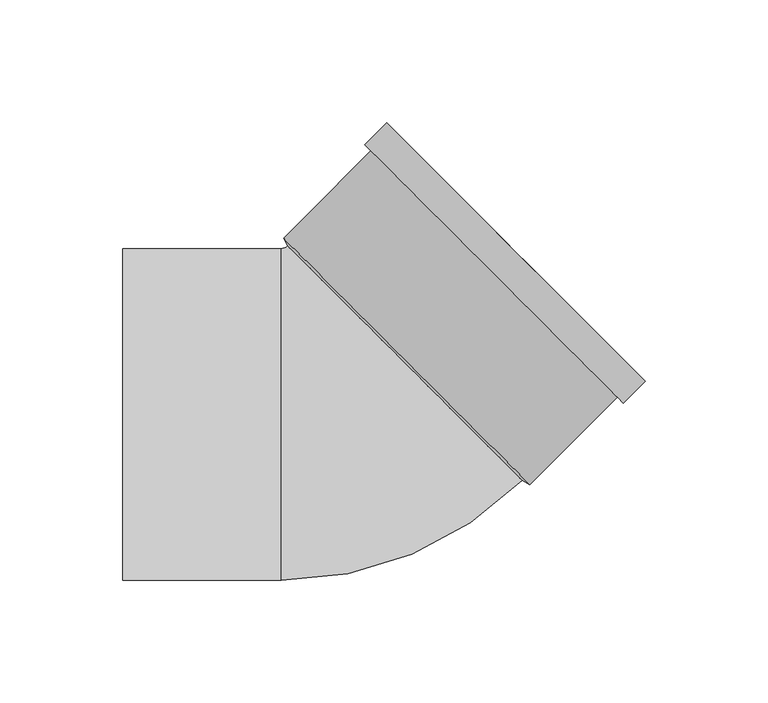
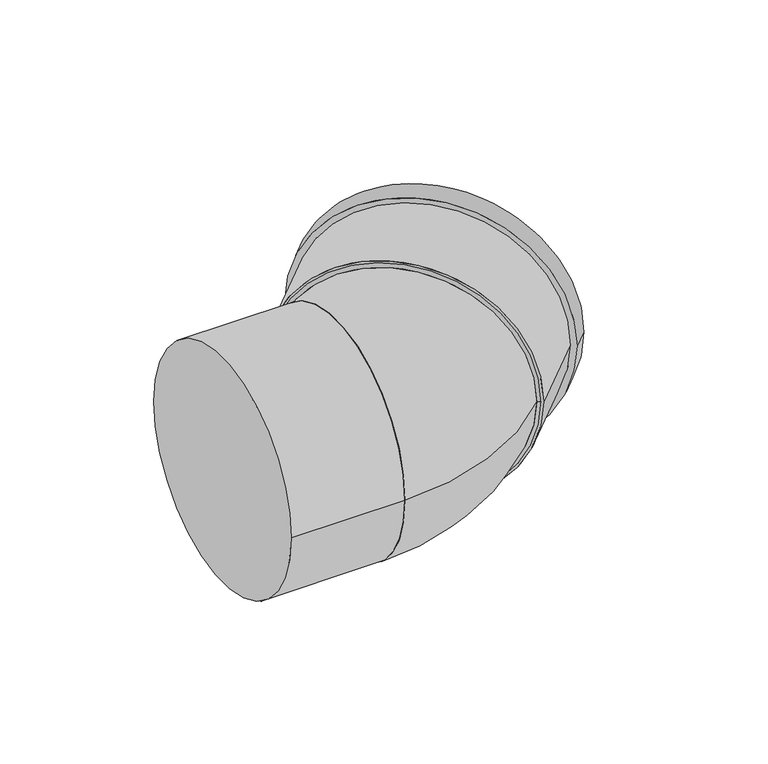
"""IFC4 building model written with IfcOpenShell, lengths in millimetres: pipe fitting geometry, Superdrain SKB Bend : Superdrain SKB Bend."""

import ifcopenshell
import ifcopenshell.guid

model = None  # the IFC model being written
_history = None  # IfcOwnerHistory: only IFC2X3 demands one
_inside = {}  # id of a spatial element -> (the spatial element, [elements in it])
_under = {}  # id of a project, library or spatial element -> (it, [spatial elements below it])
_declared = {}  # id of a project -> (the project, [libraries it declares])
_typed = {}  # id of a type object -> (the type object, [elements of that type])
_made_of = {}  # id of a material, layer set ... -> (it, [elements and type objects made of it])


def new_model(schema):
    """Start an empty IFC model of exactly this schema.

    Asked for "IFC4X3", IfcOpenShell would pick the latest addendum, in which some entities
    have other attributes; the version numbers below select the first issue.
    IFC2X3 requires an IfcOwnerHistory on every rooted entity: one is made here for all.
    """
    global model, _history
    if schema == "IFC4X3":
        model = ifcopenshell.file(schema_version=(4, 3, 0, 0))
    else:
        model = ifcopenshell.file(schema=schema)
    _inside.clear()
    _under.clear()
    _declared.clear()
    _typed.clear()
    _made_of.clear()
    _history = None
    if model.schema == "IFC2X3":
        org = make("IfcOrganization", Name="unknown")
        user = make(
            "IfcPersonAndOrganization",
            ThePerson=make("IfcPerson", FamilyName="unknown"),
            TheOrganization=org,
        )
        app = make(
            "IfcApplication",
            ApplicationDeveloper=org,
            Version="unknown",
            ApplicationFullName="unknown",
            ApplicationIdentifier="unknown",
        )
        _history = make(
            "IfcOwnerHistory",
            OwningUser=user,
            OwningApplication=app,
            ChangeAction="ADDED",
            CreationDate=0,
        )
    return model


def make(cls, **values):
    """One entity of the class cls with the attributes given. An attribute that is None is left unset."""
    return model.create_entity(
        cls, **{name: value for name, value in values.items() if value is not None}
    )


def rooted(cls, **values):
    """An entity with a GlobalId (a new one), such as an element, a storey or a relation."""
    return make(cls, GlobalId=ifcopenshell.guid.new(), OwnerHistory=_history, **values)


def si_unit(unit_type, name, prefix=None):
    """IfcSIUnit, for example si_unit("LENGTHUNIT", "METRE", prefix="MILLI")."""
    return make("IfcSIUnit", UnitType=unit_type, Prefix=prefix, Name=name)


def assignment(units):
    """IfcUnitAssignment: the units of a project."""
    return None if units is None else make("IfcUnitAssignment", Units=units)


def point(xyz):
    """IfcCartesianPoint."""
    return None if xyz is None else make("IfcCartesianPoint", Coordinates=xyz)


def direction(xyz):
    """IfcDirection."""
    return None if xyz is None else make("IfcDirection", DirectionRatios=xyz)


def frame(location, z_axis=None, x_axis=None):
    """IfcAxis2Placement3D, a coordinate frame: its origin and axes. An axis left out is left unset."""
    return make(
        "IfcAxis2Placement3D",
        Location=point(location),
        Axis=direction(z_axis),
        RefDirection=direction(x_axis),
    )


def frame_2d(location, x_axis=None):
    """IfcAxis2Placement2D, a coordinate frame in the plane: its origin and x axis."""
    return make(
        "IfcAxis2Placement2D", Location=point(location), RefDirection=direction(x_axis)
    )


def origin():
    """The frame at (0, 0, 0) with its axes left unset."""
    return frame((0.0, 0.0, 0.0))


def origin_2d():
    """The frame at (0, 0) in the plane with its x axis left unset."""
    return frame_2d((0.0, 0.0))


def place(relative_to, where):
    """IfcLocalPlacement: puts the frame where relative to a parent placement (None: the world)."""
    return make(
        "IfcLocalPlacement", PlacementRelTo=relative_to, RelativePlacement=where
    )


def context(
    kind, dimensions, precision=None, world=None, true_north=None, identifier=None
):
    """IfcGeometricRepresentationContext, for example the 3D "Model" context."""
    return make(
        "IfcGeometricRepresentationContext",
        ContextIdentifier=identifier,
        ContextType=kind,
        CoordinateSpaceDimension=dimensions,
        Precision=precision,
        WorldCoordinateSystem=world,
        TrueNorth=true_north,
    )


def project(units=None, contexts=None):
    """IfcProject with its units and contexts."""
    return rooted(
        "IfcProject",
        Name="project",
        RepresentationContexts=contexts,
        UnitsInContext=assignment(units),
    )


def spatial(cls, under=None, at=None, **own):
    """A site, building, storey or space (cls), placed at a placement, below another one or the project."""
    s = rooted(cls, ObjectPlacement=at, **own)
    if under is not None:
        _under.setdefault(under.id(), (under, []))[1].append(s)
    return s


def polyline(points):
    """IfcPolyline through the points."""
    return make("IfcPolyline", Points=[point(p) for p in points])


def circle_curve(where, radius):
    """IfcCircle in the frame where."""
    return make("IfcCircle", Position=where, Radius=radius)


def ellipse_curve(where, semi_axis1, semi_axis2):
    """IfcEllipse in the frame where."""
    return make(
        "IfcEllipse", Position=where, SemiAxis1=semi_axis1, SemiAxis2=semi_axis2
    )


def trimmed(basis, trim1, trim2, sense, master):
    """IfcTrimmedCurve: the piece of a basis curve between two trims."""
    return make(
        "IfcTrimmedCurve",
        BasisCurve=basis,
        Trim1=trim1,
        Trim2=trim2,
        SenseAgreement=sense,
        MasterRepresentation=master,
    )


def segment(curve, same_sense, transition):
    """IfcCompositeCurveSegment."""
    return make(
        "IfcCompositeCurveSegment",
        Transition=transition,
        SameSense=same_sense,
        ParentCurve=curve,
    )


def composite_curve(segments, self_intersect=None):
    """IfcCompositeCurve: segments joined end to end."""
    return make("IfcCompositeCurve", Segments=segments, SelfIntersect=self_intersect)


def outline(outer, holes=None, kind="AREA"):
    """IfcArbitraryClosedProfileDef: a profile drawn as a closed curve; with holes, ...WithVoids."""
    if holes is None:
        return make("IfcArbitraryClosedProfileDef", ProfileType=kind, OuterCurve=outer)
    return make(
        "IfcArbitraryProfileDefWithVoids",
        ProfileType=kind,
        OuterCurve=outer,
        InnerCurves=holes,
    )


def extrude(swept, where, along, depth):
    """IfcExtrudedAreaSolid: the profile swept, set in the frame where, extruded along a direction by depth."""
    return make(
        "IfcExtrudedAreaSolid",
        SweptArea=swept,
        Position=where,
        ExtrudedDirection=direction(along),
        Depth=depth,
    )


def shape(context_of_items, identifier, shape_type, items):
    """IfcShapeRepresentation: the items that make up one representation, for example the "Body"."""
    return make(
        "IfcShapeRepresentation",
        ContextOfItems=context_of_items,
        RepresentationIdentifier=identifier,
        RepresentationType=shape_type,
        Items=items,
    )


def source(mapping_origin, context_of_items, identifier, shape_type, items):
    """IfcRepresentationMap: a shape defined once, which mapped items show again and again."""
    return make(
        "IfcRepresentationMap",
        MappingOrigin=mapping_origin,
        MappedRepresentation=shape(context_of_items, identifier, shape_type, items),
    )


def transform(
    local_origin,
    x_axis=None,
    y_axis=None,
    z_axis=None,
    scale=None,
    scale2=None,
    scale3=None,
    uniform=True,
):
    """IfcCartesianTransformationOperator3D, or its non-uniform kind. x_axis, y_axis, z_axis: its Axis1, 2, 3."""
    if uniform:
        return make(
            "IfcCartesianTransformationOperator3D",
            Axis1=direction(x_axis),
            Axis2=direction(y_axis),
            LocalOrigin=point(local_origin),
            Scale=scale,
            Axis3=direction(z_axis),
        )
    return make(
        "IfcCartesianTransformationOperator3DnonUniform",
        Axis1=direction(x_axis),
        Axis2=direction(y_axis),
        LocalOrigin=point(local_origin),
        Scale=scale,
        Axis3=direction(z_axis),
        Scale2=scale2,
        Scale3=scale3,
    )


def mapped(mapping_source, mapping_target):
    """IfcMappedItem: shows the shape of a source again, moved by a transform."""
    return make(
        "IfcMappedItem", MappingSource=mapping_source, MappingTarget=mapping_target
    )


def made_of(thing, what):
    """Note that an element or type object is made of a material, layer set ...; save() writes the relation."""
    if what is not None:
        _made_of.setdefault(what.id(), (what, []))[1].append(thing)
    return thing


def element(
    cls,
    number,
    at=None,
    inside=None,
    cuts=None,
    type_object=None,
    material=None,
    context=None,
    identifier="Body",
    shape_type=None,
    held_by="IfcProductDefinitionShape",
    body=None,
    shapes=None,
    **own,
):
    """One element of the class cls, such as IfcWall. Its Tag is "e" and its number.

    at: its placement. inside: the storey or other place that contains it. cuts: it is an
    opening in that element (IfcRelVoidsElement). A single representation is given by context,
    identifier, shape_type and body (its items); several are given by shapes. held_by: the class
    of the entity that holds the representations. save() writes the other relations.
    """
    e = rooted(cls, Tag="e%d" % number, ObjectPlacement=at, **own)
    if body is not None:
        shapes = [shape(context, identifier, shape_type, body)]
    if shapes is not None:
        e.Representation = make(held_by, Representations=shapes)
    if inside is not None:
        _inside.setdefault(inside.id(), (inside, []))[1].append(e)
    if cuts is not None:
        rooted(
            "IfcRelVoidsElement", RelatingBuildingElement=cuts, RelatedOpeningElement=e
        )
    if type_object is not None:
        _typed.setdefault(type_object.id(), (type_object, []))[1].append(e)
    return made_of(e, material)


def aggregate(whole, parts):
    """IfcRelAggregates: a whole, such as a stair, and the parts it consists of."""
    return rooted("IfcRelAggregates", RelatingObject=whole, RelatedObjects=parts)


def save(model, path):
    """Write the relations noted so far, then the file.

    IfcRelAggregates (storeys below a building ...), IfcRelContainedInSpatialStructure (elements
    in a storey), IfcRelDefinesByType, IfcRelAssociatesMaterial and IfcRelDeclares: one each for
    every whole, place, type object, material and project.
    """
    for whole, parts in _under.values():
        aggregate(whole, parts)
    for where, things in _inside.values():
        rooted(
            "IfcRelContainedInSpatialStructure",
            RelatedElements=things,
            RelatingStructure=where,
        )
    for kind, things in _typed.values():
        rooted("IfcRelDefinesByType", RelatedObjects=things, RelatingType=kind)
    for what, things in _made_of.values():
        rooted("IfcRelAssociatesMaterial", RelatedObjects=things, RelatingMaterial=what)
    for by, libraries in _declared.values():
        rooted("IfcRelDeclares", RelatingContext=by, RelatedDefinitions=libraries)
    model.write(path)


def plane_surface(at):
    """IfcPlane: the flat surface through the origin of the frame at, square to its z axis."""
    return make("IfcPlane", Position=at)


def revolved_surface(curve, axis_point, axis_direction):
    """IfcSurfaceOfRevolution: the curve turned about the line through axis_point along axis_direction."""
    return make(
        "IfcSurfaceOfRevolution",
        SweptCurve=make("IfcArbitraryOpenProfileDef", ProfileType="CURVE", Curve=curve),
        AxisPosition=make("IfcAxis1Placement", Location=point(axis_point), Axis=direction(axis_direction)),
    )


def advanced_brep(points, edges, surfaces, faces):
    """IfcAdvancedBrep: a solid bounded by faces that lie on surfaces and meet in shared edges.

    An edge is (start, end): straight between two places in points (the first is 0);
    or (start, end, curve); or (start, end, curve, False) where it runs against its curve.
    A face is (place in surfaces, loops), or (place, loops, False) where it looks against
    its surface's normal. A loop lists edges by number (the first is 1), with a minus sign
    where the edge is run from its end to its start. The first loop is the outer one.
    """
    corners = [point(p) for p in points]
    vertices = [make("IfcVertexPoint", VertexGeometry=c) for c in corners]
    made = []
    for start, end, *more in edges:
        made.append(
            make(
                "IfcEdgeCurve",
                EdgeStart=vertices[start],
                EdgeEnd=vertices[end],
                EdgeGeometry=more[0] if more else make("IfcPolyline", Points=[corners[start], corners[end]]),
                SameSense=more[1] if len(more) > 1 else True,
            )
        )
    hull = []
    for where, loops, *sense in faces:
        bounds = []
        for j, loop in enumerate(loops):
            ring = [make("IfcOrientedEdge", EdgeElement=made[abs(k) - 1], Orientation=k > 0) for k in loop]
            bounds.append(
                make(
                    "IfcFaceOuterBound" if j == 0 else "IfcFaceBound",
                    Bound=make("IfcEdgeLoop", EdgeList=ring),
                    Orientation=True,
                )
            )
        hull.append(make("IfcAdvancedFace", Bounds=bounds, FaceSurface=surfaces[where], SameSense=sense[0] if sense else True))
    return make("IfcAdvancedBrep", Outer=make("IfcClosedShell", CfsFaces=hull))


def pipe_fitting_a1ca4762(model_context):
    return source(origin(), model_context, "Body", "SolidModel", [
        advanced_brep(
        [(68.5893578, -26.8700577, 0.0), (-26.8700577, 68.5893578, 0.0), (-29.5, -67.5, 0.0), (-29.5, 67.5, 0.0)],
        [
            (0, 1, circle_curve(frame((20.85965, 20.85965, 0.0), z_axis=(0.7071067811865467, 0.7071067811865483, 0.0), x_axis=(-0.7071067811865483, 0.7071067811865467, 0.0)), 67.5)),
            (1, 0, circle_curve(frame((20.85965, 20.85965, 0.0), z_axis=(0.7071067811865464, 0.7071067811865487, 0.0), x_axis=(-0.7071067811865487, 0.7071067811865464, 0.0)), 67.5)),
            (2, 3, circle_curve(frame((-29.5, 0.0, 0.0), z_axis=(-1.0, 0.0, 0.0), x_axis=(0.0, 1.0, 0.0)), 67.5)),
            (3, 2, circle_curve(frame((-29.5, 0.0, 0.0), z_axis=(-1.0, 0.0, 0.0), x_axis=(0.0, 1.0, 0.0)), 67.5)),
            (3, 1, circle_curve(frame((-29.5, 71.2193001, 0.0), z_axis=(0.0, 0.0, 1.0), x_axis=(1.0, 0.0, 0.0)), 3.7193001)),
            (0, 2, circle_curve(frame((-29.5, 71.2193001, 0.0), z_axis=(0.0, 0.0, -1.0), x_axis=(1.0, 0.0, 0.0)), 138.7193001)),
        ],
        [
            plane_surface(frame((20.85965, 20.85965, 0.0), z_axis=(0.7071067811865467, 0.7071067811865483, 0.0), x_axis=(0.0, 0.0, -1.0))),
            plane_surface(frame((-29.5, 0.0, 0.0), z_axis=(-1.0, 0.0, 0.0), x_axis=(0.0, 0.0, -1.0))),
            revolved_surface(trimmed(ellipse_curve(frame((41.7193001, 71.2193001, 0.0), z_axis=(0.0, -1.0, 0.0), x_axis=(-1.0, 0.0, 0.0)), 67.5, 67.5), [point((-25.7806999, 71.2193001, 0.0))], [point((109.2193001, 71.2193001, 0.0))], True, "CARTESIAN"), (-29.5, 71.2193001, 0.0), (0.0, 0.0, 1.0)),
            revolved_surface(trimmed(ellipse_curve(frame((41.7193001, 71.2193001, 0.0), z_axis=(0.0, -1.0, 0.0), x_axis=(-1.0, 0.0, 0.0)), 67.5, 67.5), [point((109.2193001, 71.2193001, 0.0))], [point((-25.7806999, 71.2193001, 0.0))], True, "CARTESIAN"), (-29.5, 71.2193001, 0.0), (0.0, 0.0, 1.0)),
        ],
        [
            (0, [[1, 2]]),
            (1, [[3, 4]]),
            (2, [[-4, 5, -1, 6]]),
            (3, [[-3, -6, -2, -5]]),
        ],
    ),
        extrude(outline(composite_curve([segment(trimmed(circle_curve(origin_2d(), 70.875), [point((0.0, 70.875))], [point((0.0, -70.875))], False, "CARTESIAN"), True, "CONTINUOUS"), segment(trimmed(circle_curve(origin_2d(), 70.875), [point((0.0, -70.875))], [point((0.0, 70.875))], False, "CARTESIAN"), True, "CONTINUOUS")], self_intersect=False), holes=[composite_curve([segment(trimmed(circle_curve(origin_2d(), 67.5), [point((0.0, 67.5))], [point((0.0, -67.5))], True, "CARTESIAN"), True, "CONTINUOUS"), segment(trimmed(circle_curve(origin_2d(), 67.5), [point((0.0, -67.5))], [point((0.0, 67.5))], True, "CARTESIAN"), True, "CONTINUOUS")], self_intersect=False)]), frame((21.5667568, 21.5667568, 0.0), z_axis=(0.7071067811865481, 0.707106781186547, 0.0), x_axis=(0.0, 0.0, 1.0)), (0.0, 0.0, 1.0), 63.0),
        extrude(outline(composite_curve([segment(trimmed(circle_curve(origin_2d(), 74.41875), [point((0.0, -74.41875))], [point((0.0, 74.41875))], False, "CARTESIAN"), True, "CONTINUOUS"), segment(trimmed(circle_curve(origin_2d(), 74.41875), [point((0.0, 74.41875))], [point((0.0, -74.41875))], False, "CARTESIAN"), True, "CONTINUOUS")], self_intersect=False), holes=[composite_curve([segment(trimmed(circle_curve(origin_2d(), 67.5), [point((0.0, -67.5))], [point((0.0, 67.5))], True, "CARTESIAN"), True, "CONTINUOUS"), segment(trimmed(circle_curve(origin_2d(), 67.5), [point((0.0, 67.5))], [point((0.0, -67.5))], True, "CARTESIAN"), True, "CONTINUOUS")], self_intersect=False)]), frame((57.2049386, 57.2049386, 0.0), z_axis=(0.7071067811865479, 0.7071067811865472, 0.0), x_axis=(0.0, 0.0, 1.0)), (0.0, 0.0, 1.0), 12.6),
        advanced_brep(
        [(71.6829499, -28.5494363, 0.0), (-28.5494363, 71.6829499, 0.0), (68.5893578, -26.8700577, 0.0), (-26.8700577, 68.5893578, 0.0)],
        [
            (0, 1, circle_curve(frame((21.5667568, 21.5667568, 0.0), z_axis=(0.7071067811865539, 0.7071067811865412, 0.0), x_axis=(0.7071067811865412, -0.7071067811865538, 0.0)), 70.875)),
            (1, 0, circle_curve(frame((21.5667568, 21.5667568, 0.0), z_axis=(0.7071067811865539, 0.7071067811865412, 0.0), x_axis=(-0.7071067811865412, 0.7071067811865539, 0.0)), 70.875)),
            (2, 3, circle_curve(frame((20.85965, 20.85965, 0.0), z_axis=(-0.7071067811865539, -0.7071067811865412, 0.0), x_axis=(-0.7071067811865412, 0.7071067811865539, 0.0)), 67.5)),
            (3, 2, circle_curve(frame((20.85965, 20.85965, 0.0), z_axis=(-0.7071067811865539, -0.7071067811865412, 0.0), x_axis=(0.7071067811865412, -0.7071067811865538, 0.0)), 67.5)),
            (3, 1),
            (0, 2),
        ],
        [
            plane_surface(frame((21.5667568, 21.5667568, 0.0), z_axis=(0.7071067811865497, 0.7071067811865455, 0.0), x_axis=(0.0, 0.0, -1.0))),
            plane_surface(frame((20.85965, 20.85965, 0.0), z_axis=(-0.7071067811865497, -0.7071067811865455, 0.0), x_axis=(0.0, 0.0, -1.0))),
            revolved_surface(polyline([(-26.87005765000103, 68.58935765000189, 0.0), (-28.549436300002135, 71.68294990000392, 0.0)]), (6.7175144, 6.7175144, 0.0), (0.7071067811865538, 0.7071067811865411, 0.0)),
            revolved_surface(polyline([(68.58935764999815, -26.870057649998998, 0.0), (71.6829499, -28.549436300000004, 0.0)]), (6.7175144, 6.7175144, 0.0), (0.7071067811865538, 0.7071067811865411, 0.0)),
        ],
        [
            (0, [[1, 2]]),
            (1, [[3, 4]]),
            (2, [[-4, 5, -1, 6]]),
            (3, [[-3, -6, -2, -5]]),
        ],
    ),
        extrude(outline(composite_curve([segment(trimmed(circle_curve(origin_2d(), 67.5), [point((-67.5, 0.0))], [point((67.5, 0.0))], False, "CARTESIAN"), True, "CONTINUOUS"), segment(trimmed(circle_curve(origin_2d(), 67.5), [point((67.5, 0.0))], [point((-67.5, 0.0))], False, "CARTESIAN"), True, "CONTINUOUS")], self_intersect=False)), frame((-94.0, 0.0, 0.0), z_axis=(1.0, 0.0, 0.0), x_axis=(0.0, 1.0, 0.0)), (0.0, 0.0, 1.0), 64.5),
    ])


if __name__ == "__main__":
    model = new_model("IFC4")
    model_context = context("Model", 3, world=origin())
    ifc_project = project(units=[si_unit("LENGTHUNIT", "METRE", prefix="MILLI")], contexts=[model_context])
    site = spatial("IfcSite", under=ifc_project)
    building = spatial("IfcBuilding", under=site)
    placement = place(None, origin())
    pipe_fitting_shape = pipe_fitting_a1ca4762(model_context)
    element("IfcPipeFitting", 1, ObjectType="Superdrain SKB Bend : Superdrain SKB Bend", at=placement, inside=building, context=model_context, shape_type="MappedRepresentation", body=[
        mapped(pipe_fitting_shape, transform((0.0, 0.0, 0.0), x_axis=(1.0, 0.0, 0.0), y_axis=(0.0, 1.0, 0.0), z_axis=(0.0, 0.0, 1.0))),
    ])
    save(model, "model.ifc")
